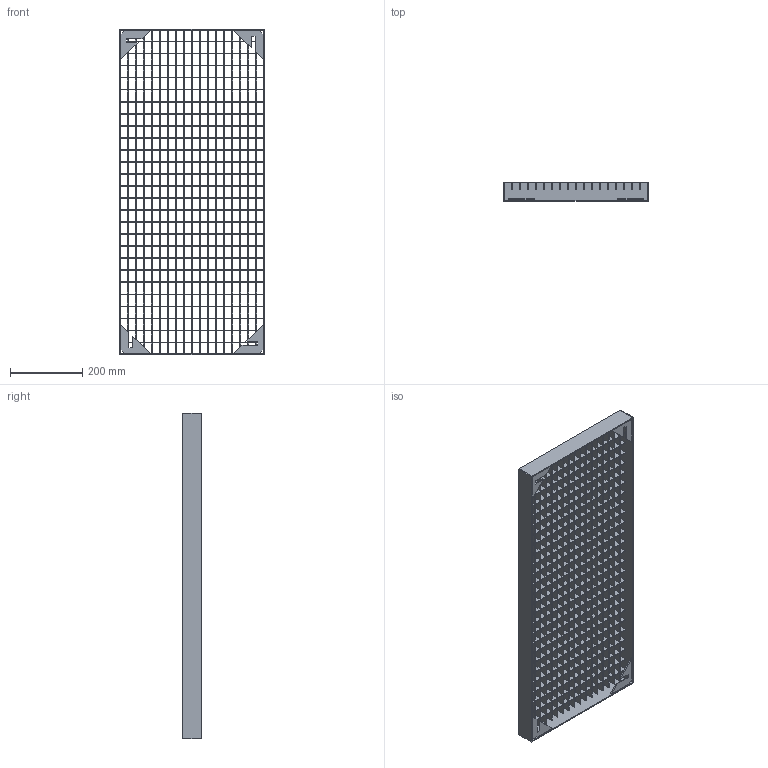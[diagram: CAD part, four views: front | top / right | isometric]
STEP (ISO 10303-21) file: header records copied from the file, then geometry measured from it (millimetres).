
FILE_DESCRIPTION (( 'STEP AP203' ), '1' );
FILE_NAME ('11012409G_Trinrist_400x900_20x30_20x2_mm_.STEP', '2014-12-19T10:16:35', ( '' ), ( '' ), 'SwSTEP 2.0', 'SolidWorks 2013', '' );
FILE_SCHEMA (( 'CONFIG_CONTROL_DESIGN' ));
Length unit declared in the file: millimetre
Products named in the file (6): 11012409G_Tvaerstav_20x2x894_mm_; 11012409G_Kantstaal_50x3x394_mm_; 11012409G_Kantstaal_50x3x900_mm_; 11012409G_Hjoernebeslag_80x80x3_mm_; 11012409G_Trinrist_400x900_20x30_20x2_mm_; 11012409G_Ribbe_20x2x394_mm_
Assembly tree (51 placements, depth 2):
  11012409G_Trinrist_400x900_20x30_20x2_mm_
    11012409G_Ribbe_20x2x394_mm_  x26
    11012409G_Tvaerstav_20x2x894_mm_  x17
    11012409G_Kantstaal_50x3x394_mm_  x2
    11012409G_Kantstaal_50x3x900_mm_  x2
    11012409G_Hjoernebeslag_80x80x3_mm_  x4
Bounding box: 400 x 50 x 900 mm (x, y, z)
Volume: 1404544.9 mm3; surface area: 1425206.2 mm2
Topology: 51 solids, 51 shells, 3858 faces, 11268 edges, 7512 vertices
Faces by surface type: plane 3858
Entity records: 8676 total; most frequent: CARTESIAN_POINT 1240, ORIENTED_EDGE 1176, DIRECTION 1108, VECTOR 588, EDGE_CURVE 588, LINE 588, VERTEX_POINT 392, AXIS2_PLACEMENT_3D 260
